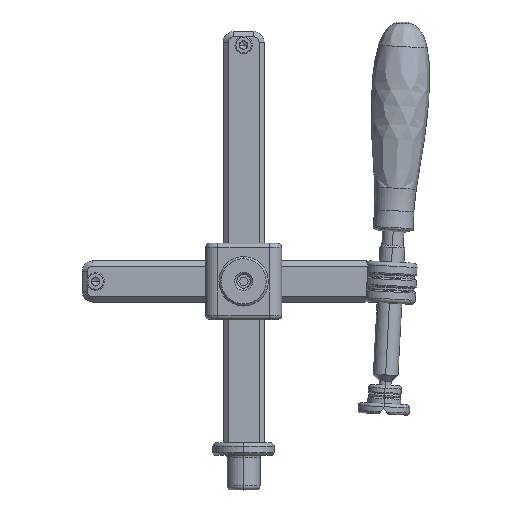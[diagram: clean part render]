
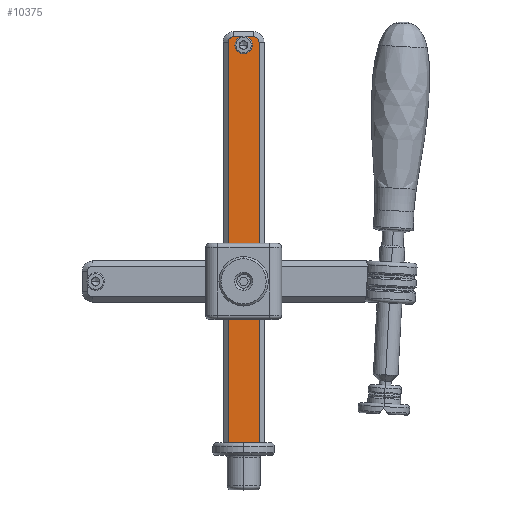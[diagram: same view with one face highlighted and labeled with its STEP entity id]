
A CAD part, top view. The second image highlights one B-rep face of the part: STEP entity #10375.
In plain terms, the highlighted planar face has unit normal (0, 0, 1).
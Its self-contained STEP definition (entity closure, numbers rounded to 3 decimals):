
#200 = CARTESIAN_POINT ( 'NONE',  ( -7.5, 0., 6.5 ) ) ;
#253 = DIRECTION ( 'NONE',  ( 0., -1., 0. ) ) ;
#320 = DIRECTION ( 'NONE',  ( 0., 0., 1. ) ) ;
#525 = AXIS2_PLACEMENT_3D ( 'NONE', #5860, #14049, #3517 ) ;
#689 = DIRECTION ( 'NONE',  ( 0., 0., -1. ) ) ;
#749 = DIRECTION ( 'NONE',  ( 0., 0., -1. ) ) ;
#1292 = DIRECTION ( 'NONE',  ( 0., 0., -1. ) ) ;
#1454 = CARTESIAN_POINT ( 'NONE',  ( -5., 195., 6.5 ) ) ;
#1645 = EDGE_CURVE ( 'NONE', #9327, #14814, #3149, .T. ) ;
#1831 = CARTESIAN_POINT ( 'NONE',  ( 0., 193.5, 6.5 ) ) ;
#2148 = EDGE_LOOP ( 'NONE', ( #2237, #13107, #4357, #13254, #12536, #5068 ) ) ;
#2237 = ORIENTED_EDGE ( 'NONE', *, *, #13669, .T. ) ;
#2394 = EDGE_CURVE ( 'NONE', #4163, #7190, #6179, .T. ) ;
#2420 = AXIS2_PLACEMENT_3D ( 'NONE', #11195, #749, #6596 ) ;
#2432 = FACE_OUTER_BOUND ( 'NONE', #2148, .T. ) ;
#2458 = CARTESIAN_POINT ( 'NONE',  ( -5., 197.5, 6.5 ) ) ;
#2570 = CARTESIAN_POINT ( 'NONE',  ( 5., 197.5, 6.5 ) ) ;
#2655 = DIRECTION ( 'NONE',  ( -1., 0., 0. ) ) ;
#3042 = VERTEX_POINT ( 'NONE', #4241 ) ;
#3149 = CIRCLE ( 'NONE', #2420, 3.1 ) ;
#3190 = VECTOR ( 'NONE', #9760, 1000. ) ;
#3464 = CIRCLE ( 'NONE', #11995, 2.5 ) ;
#3517 = DIRECTION ( 'NONE',  ( -1., 0., 0. ) ) ;
#3600 = CARTESIAN_POINT ( 'NONE',  ( -7.5, 200., 6.5 ) ) ;
#3726 = AXIS2_PLACEMENT_3D ( 'NONE', #1831, #689, #5317 ) ;
#3807 = CARTESIAN_POINT ( 'NONE',  ( -10., 200., 6.5 ) ) ;
#3874 = VECTOR ( 'NONE', #8048, 1000. ) ;
#4159 = EDGE_CURVE ( 'NONE', #14814, #9327, #4928, .T. ) ;
#4163 = VERTEX_POINT ( 'NONE', #14796 ) ;
#4241 = CARTESIAN_POINT ( 'NONE',  ( 7.5, 0., 6.5 ) ) ;
#4357 = ORIENTED_EDGE ( 'NONE', *, *, #8439, .T. ) ;
#4532 = LINE ( 'NONE', #5522, #3874 ) ;
#4928 = CIRCLE ( 'NONE', #3726, 3.1 ) ;
#4946 = DIRECTION ( 'NONE',  ( -1., 0., 0. ) ) ;
#4979 = VERTEX_POINT ( 'NONE', #9204 ) ;
#5068 = ORIENTED_EDGE ( 'NONE', *, *, #5719, .T. ) ;
#5317 = DIRECTION ( 'NONE',  ( -1., 0., 0. ) ) ;
#5522 = CARTESIAN_POINT ( 'NONE',  ( 7.5, 200., 6.5 ) ) ;
#5719 = EDGE_CURVE ( 'NONE', #14550, #7488, #14935, .T. ) ;
#5860 = CARTESIAN_POINT ( 'NONE',  ( 5., 195., 6.5 ) ) ;
#5995 = CARTESIAN_POINT ( 'NONE',  ( -10., 0., 6.5 ) ) ;
#6083 = EDGE_CURVE ( 'NONE', #3042, #4979, #4532, .T. ) ;
#6179 = LINE ( 'NONE', #3600, #9221 ) ;
#6596 = DIRECTION ( 'NONE',  ( -1., 0., 0. ) ) ;
#6756 = DIRECTION ( 'NONE',  ( -1., 0., 0. ) ) ;
#7190 = VERTEX_POINT ( 'NONE', #200 ) ;
#7488 = VERTEX_POINT ( 'NONE', #2458 ) ;
#8048 = DIRECTION ( 'NONE',  ( 0., 1., 0. ) ) ;
#8439 = EDGE_CURVE ( 'NONE', #7190, #3042, #9615, .T. ) ;
#8574 = EDGE_CURVE ( 'NONE', #4979, #14550, #12945, .T. ) ;
#8643 = EDGE_LOOP ( 'NONE', ( #13673, #8718 ) ) ;
#8718 = ORIENTED_EDGE ( 'NONE', *, *, #1645, .T. ) ;
#9204 = CARTESIAN_POINT ( 'NONE',  ( 7.5, 195., 6.5 ) ) ;
#9221 = VECTOR ( 'NONE', #253, 1000. ) ;
#9327 = VERTEX_POINT ( 'NONE', #11418 ) ;
#9615 = LINE ( 'NONE', #5995, #3190 ) ;
#9760 = DIRECTION ( 'NONE',  ( 1., 0., 0. ) ) ;
#10022 = AXIS2_PLACEMENT_3D ( 'NONE', #3807, #1292, #2655 ) ;
#10375 = ADVANCED_FACE ( 'NONE', ( #14039, #2432 ), #10532, .F. ) ;
#10532 = PLANE ( 'NONE',  #10022 ) ;
#11195 = CARTESIAN_POINT ( 'NONE',  ( 0., 193.5, 6.5 ) ) ;
#11316 = VECTOR ( 'NONE', #6756, 1000. ) ;
#11418 = CARTESIAN_POINT ( 'NONE',  ( -3.1, 193.5, 6.5 ) ) ;
#11995 = AXIS2_PLACEMENT_3D ( 'NONE', #1454, #320, #4946 ) ;
#12536 = ORIENTED_EDGE ( 'NONE', *, *, #8574, .T. ) ;
#12945 = CIRCLE ( 'NONE', #525, 2.5 ) ;
#13107 = ORIENTED_EDGE ( 'NONE', *, *, #2394, .T. ) ;
#13254 = ORIENTED_EDGE ( 'NONE', *, *, #6083, .T. ) ;
#13649 = CARTESIAN_POINT ( 'NONE',  ( -10., 197.5, 6.5 ) ) ;
#13669 = EDGE_CURVE ( 'NONE', #7488, #4163, #3464, .T. ) ;
#13673 = ORIENTED_EDGE ( 'NONE', *, *, #4159, .T. ) ;
#14039 = FACE_BOUND ( 'NONE', #8643, .T. ) ;
#14049 = DIRECTION ( 'NONE',  ( 0., 0., 1. ) ) ;
#14550 = VERTEX_POINT ( 'NONE', #2570 ) ;
#14796 = CARTESIAN_POINT ( 'NONE',  ( -7.5, 195., 6.5 ) ) ;
#14814 = VERTEX_POINT ( 'NONE', #15050 ) ;
#14935 = LINE ( 'NONE', #13649, #11316 ) ;
#15050 = CARTESIAN_POINT ( 'NONE',  ( 3.1, 193.5, 6.5 ) ) ;
